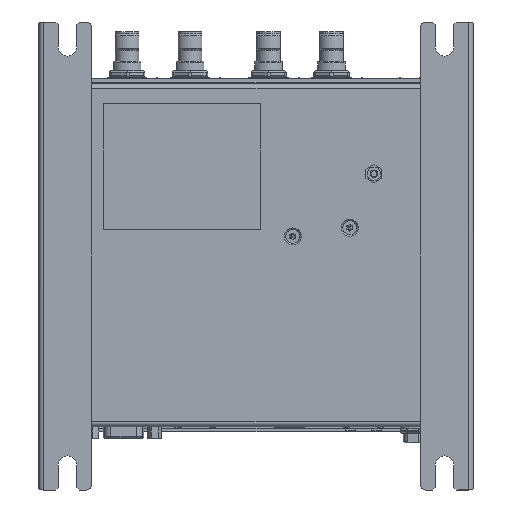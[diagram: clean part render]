
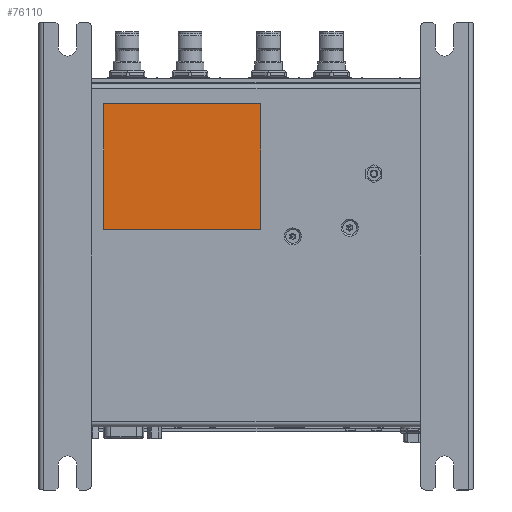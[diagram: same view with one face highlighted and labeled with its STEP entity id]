
A CAD part, front view. The second image highlights one B-rep face of the part: STEP entity #76110.
In plain terms, the highlighted planar face has unit normal (0, -1, 0).
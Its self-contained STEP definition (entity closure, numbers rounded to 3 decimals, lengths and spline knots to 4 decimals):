
#287 = DIRECTION ( 'NONE',  ( 0., 1., 0. ) ) ;
#856 = VERTEX_POINT ( 'NONE', #22775 ) ;
#2510 = DIRECTION ( 'NONE',  ( 0., 0., 1. ) ) ;
#10217 = VERTEX_POINT ( 'NONE', #80639 ) ;
#13376 = LINE ( 'NONE', #55349, #69119 ) ;
#16654 = VERTEX_POINT ( 'NONE', #48158 ) ;
#16895 = ORIENTED_EDGE ( 'NONE', *, *, #34095, .T. ) ;
#22775 = CARTESIAN_POINT ( 'NONE',  ( -2.4213, -0.01, 0.4114 ) ) ;
#24467 = FACE_OUTER_BOUND ( 'NONE', #45544, .T. ) ;
#26984 = EDGE_CURVE ( 'NONE', #16654, #856, #53070, .T. ) ;
#34095 = EDGE_CURVE ( 'NONE', #856, #10217, #13376, .T. ) ;
#34627 = VERTEX_POINT ( 'NONE', #70530 ) ;
#38071 = PLANE ( 'NONE',  #63018 ) ;
#45544 = EDGE_LOOP ( 'NONE', ( #60170, #16895, #54589, #97184 ) ) ;
#45689 = CARTESIAN_POINT ( 'NONE',  ( -2.4213, -0.01, 2.4114 ) ) ;
#46603 = CARTESIAN_POINT ( 'NONE',  ( -2.4213, -0.01, 0.4114 ) ) ;
#48158 = CARTESIAN_POINT ( 'NONE',  ( -2.4213, -0.01, 2.4114 ) ) ;
#48966 = CARTESIAN_POINT ( 'NONE',  ( -2.4213, -0.01, 2.4114 ) ) ;
#50690 = EDGE_CURVE ( 'NONE', #34627, #16654, #98156, .T. ) ;
#53070 = LINE ( 'NONE', #46603, #70961 ) ;
#53308 = DIRECTION ( 'NONE',  ( -1., 0., 0. ) ) ;
#54589 = ORIENTED_EDGE ( 'NONE', *, *, #82388, .T. ) ;
#55349 = CARTESIAN_POINT ( 'NONE',  ( -2.4213, -0.01, 0.4114 ) ) ;
#56237 = DIRECTION ( 'NONE',  ( -1., 0., 0. ) ) ;
#60170 = ORIENTED_EDGE ( 'NONE', *, *, #26984, .T. ) ;
#63018 = AXIS2_PLACEMENT_3D ( 'NONE', #45689, #287, #53308 ) ;
#64088 = VECTOR ( 'NONE', #2510, 39.3701 ) ;
#66435 = LINE ( 'NONE', #93316, #64088 ) ;
#69119 = VECTOR ( 'NONE', #70650, 39.3701 ) ;
#70530 = CARTESIAN_POINT ( 'NONE',  ( 0.0787, -0.01, 2.4114 ) ) ;
#70650 = DIRECTION ( 'NONE',  ( 1., 0., 0. ) ) ;
#70961 = VECTOR ( 'NONE', #92028, 39.3701 ) ;
#76110 = ADVANCED_FACE ( 'NONE', ( #24467 ), #38071, .F. ) ;
#80639 = CARTESIAN_POINT ( 'NONE',  ( 0.0787, -0.01, 0.4114 ) ) ;
#82388 = EDGE_CURVE ( 'NONE', #10217, #34627, #66435, .T. ) ;
#92028 = DIRECTION ( 'NONE',  ( 0., 0., -1. ) ) ;
#93316 = CARTESIAN_POINT ( 'NONE',  ( 0.0787, -0.01, 0.4114 ) ) ;
#95824 = VECTOR ( 'NONE', #56237, 39.3701 ) ;
#97184 = ORIENTED_EDGE ( 'NONE', *, *, #50690, .T. ) ;
#98156 = LINE ( 'NONE', #48966, #95824 ) ;
